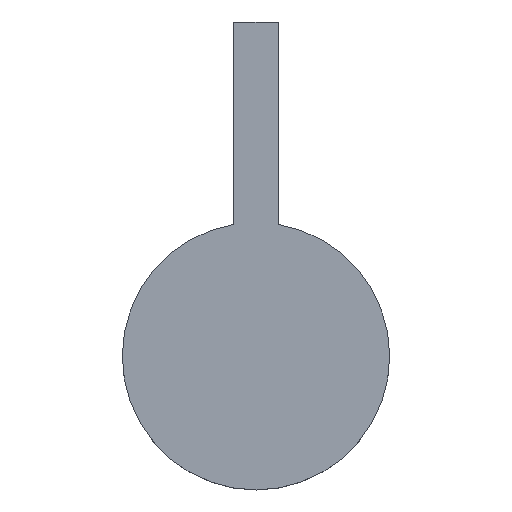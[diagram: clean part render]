
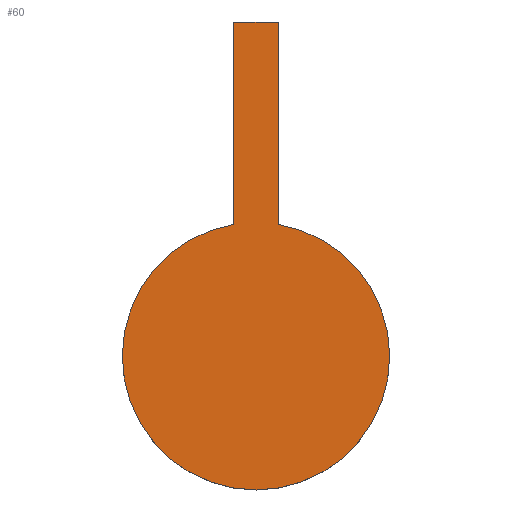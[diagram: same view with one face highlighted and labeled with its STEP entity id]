
A CAD part, top view. The second image highlights one B-rep face of the part: STEP entity #60.
In plain terms, the highlighted planar face has unit normal (0, 0, 1).
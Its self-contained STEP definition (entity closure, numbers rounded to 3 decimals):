
#60 = ADVANCED_FACE( '', ( #131 ), #132, .F. );
#131 = FACE_OUTER_BOUND( '', #214, .T. );
#132 = PLANE( '', #215 );
#214 = EDGE_LOOP( '', ( #323, #324, #325, #326 ) );
#215 = AXIS2_PLACEMENT_3D( '', #327, #328, #329 );
#323 = ORIENTED_EDGE( '', *, *, #466, .F. );
#324 = ORIENTED_EDGE( '', *, *, #467, .F. );
#325 = ORIENTED_EDGE( '', *, *, #457, .F. );
#326 = ORIENTED_EDGE( '', *, *, #464, .F. );
#327 = CARTESIAN_POINT( '', ( -150., 150., 0. ) );
#328 = DIRECTION( '', ( 0., 0., -1. ) );
#329 = DIRECTION( '', ( 0., 1., 0. ) );
#457 = EDGE_CURVE( '', #534, #523, #536, .T. );
#464 = EDGE_CURVE( '', #545, #534, #547, .T. );
#466 = EDGE_CURVE( '', #549, #545, #550, .T. );
#467 = EDGE_CURVE( '', #523, #549, #551, .T. );
#523 = VERTEX_POINT( '', #619 );
#534 = VERTEX_POINT( '', #638 );
#536 = LINE( '', #641, #642 );
#545 = VERTEX_POINT( '', #652 );
#547 = LINE( '', #655, #656 );
#549 = VERTEX_POINT( '', #658 );
#550 = LINE( '', #659, #660 );
#551 = CIRCLE( '', #661, 60. );
#619 = CARTESIAN_POINT( '', ( 10., 59.161, 0. ) );
#638 = CARTESIAN_POINT( '', ( 10., 150., 0. ) );
#641 = CARTESIAN_POINT( '', ( 10., 150., 0. ) );
#642 = VECTOR( '', #737, 1000. );
#652 = CARTESIAN_POINT( '', ( -10., 150., 0. ) );
#655 = CARTESIAN_POINT( '', ( -150., 150., 0. ) );
#656 = VECTOR( '', #746, 1000. );
#658 = CARTESIAN_POINT( '', ( -10., 59.161, 0. ) );
#659 = CARTESIAN_POINT( '', ( -10., 0., 0. ) );
#660 = VECTOR( '', #747, 1000. );
#661 = AXIS2_PLACEMENT_3D( '', #748, #749, #750 );
#737 = DIRECTION( '', ( 0., -1., 0. ) );
#746 = DIRECTION( '', ( 1., 0., 0. ) );
#747 = DIRECTION( '', ( 0., 1., 0. ) );
#748 = CARTESIAN_POINT( '', ( 0., 0., 0. ) );
#749 = DIRECTION( '', ( 0., 0., -1. ) );
#750 = DIRECTION( '', ( -1., 0., 0. ) );
